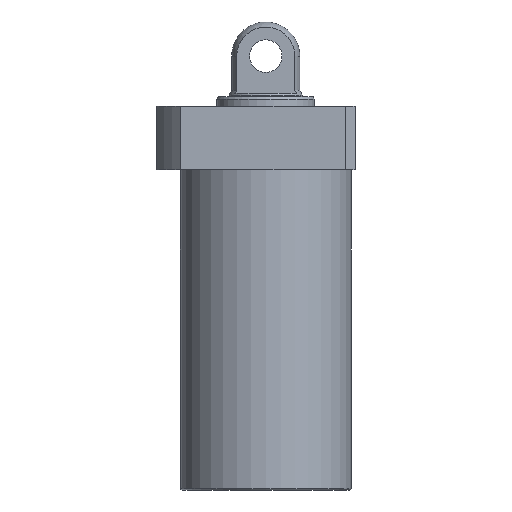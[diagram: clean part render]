
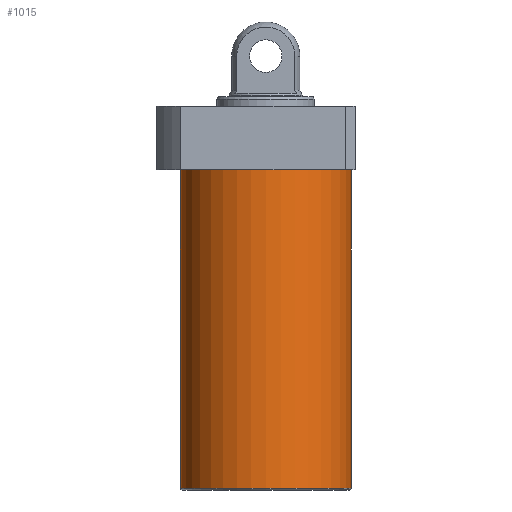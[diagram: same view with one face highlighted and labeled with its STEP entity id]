
A CAD part, front view. The second image highlights one B-rep face of the part: STEP entity #1015.
In plain terms, the highlighted cylindrical face has radius 52.5 mm (diameter 105 mm), a partial arc.
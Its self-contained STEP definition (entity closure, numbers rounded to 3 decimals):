
#44 = VECTOR ( 'NONE', #810, 1000. ) ;
#50 = AXIS2_PLACEMENT_3D ( 'NONE', #1357, #1067, #1350 ) ;
#111 = LINE ( 'NONE', #391, #44 ) ;
#287 = EDGE_CURVE ( 'NONE', #1098, #1458, #111, .T. ) ;
#288 = DIRECTION ( 'NONE',  ( 0., 0., 1. ) ) ;
#387 = EDGE_CURVE ( 'NONE', #1385, #1637, #1307, .T. ) ;
#391 = CARTESIAN_POINT ( 'NONE',  ( -52.5, 0., -216.5 ) ) ;
#421 = CIRCLE ( 'NONE', #50, 52.5 ) ;
#630 = EDGE_CURVE ( 'NONE', #1637, #1458, #1683, .T. ) ;
#633 = ORIENTED_EDGE ( 'NONE', *, *, #630, .T. ) ;
#714 = AXIS2_PLACEMENT_3D ( 'NONE', #1704, #288, #1562 ) ;
#726 = CYLINDRICAL_SURFACE ( 'NONE', #714, 52.5 ) ;
#757 = DIRECTION ( 'NONE',  ( 0., 0., -1. ) ) ;
#810 = DIRECTION ( 'NONE',  ( 0., 0., 1. ) ) ;
#833 = EDGE_CURVE ( 'NONE', #1098, #1385, #421, .T. ) ;
#895 = CARTESIAN_POINT ( 'NONE',  ( -52.5, 0., -19.5 ) ) ;
#904 = AXIS2_PLACEMENT_3D ( 'NONE', #1316, #757, #1746 ) ;
#906 = FACE_OUTER_BOUND ( 'NONE', #1551, .T. ) ;
#1015 = ADVANCED_FACE ( 'NONE', ( #906 ), #726, .T. ) ;
#1055 = ORIENTED_EDGE ( 'NONE', *, *, #833, .T. ) ;
#1067 = DIRECTION ( 'NONE',  ( 0., 0., 1. ) ) ;
#1098 = VERTEX_POINT ( 'NONE', #1299 ) ;
#1185 = ORIENTED_EDGE ( 'NONE', *, *, #387, .T. ) ;
#1269 = VECTOR ( 'NONE', #1790, 1000. ) ;
#1277 = CARTESIAN_POINT ( 'NONE',  ( 52.5, 0., -215.5 ) ) ;
#1299 = CARTESIAN_POINT ( 'NONE',  ( -52.5, 0., -215.5 ) ) ;
#1307 = LINE ( 'NONE', #1523, #1269 ) ;
#1316 = CARTESIAN_POINT ( 'NONE',  ( 0., 0., -19.5 ) ) ;
#1350 = DIRECTION ( 'NONE',  ( -1., 0., 0. ) ) ;
#1357 = CARTESIAN_POINT ( 'NONE',  ( 0., 0., -215.5 ) ) ;
#1385 = VERTEX_POINT ( 'NONE', #1277 ) ;
#1445 = ORIENTED_EDGE ( 'NONE', *, *, #287, .F. ) ;
#1458 = VERTEX_POINT ( 'NONE', #895 ) ;
#1481 = CARTESIAN_POINT ( 'NONE',  ( 52.5, 0., -19.5 ) ) ;
#1523 = CARTESIAN_POINT ( 'NONE',  ( 52.5, 0., -216.5 ) ) ;
#1551 = EDGE_LOOP ( 'NONE', ( #1445, #1055, #1185, #633 ) ) ;
#1562 = DIRECTION ( 'NONE',  ( 1., 0., 0. ) ) ;
#1637 = VERTEX_POINT ( 'NONE', #1481 ) ;
#1683 = CIRCLE ( 'NONE', #904, 52.5 ) ;
#1704 = CARTESIAN_POINT ( 'NONE',  ( 0., 0., -216.5 ) ) ;
#1746 = DIRECTION ( 'NONE',  ( 1., 0., 0. ) ) ;
#1790 = DIRECTION ( 'NONE',  ( 0., 0., 1. ) ) ;
